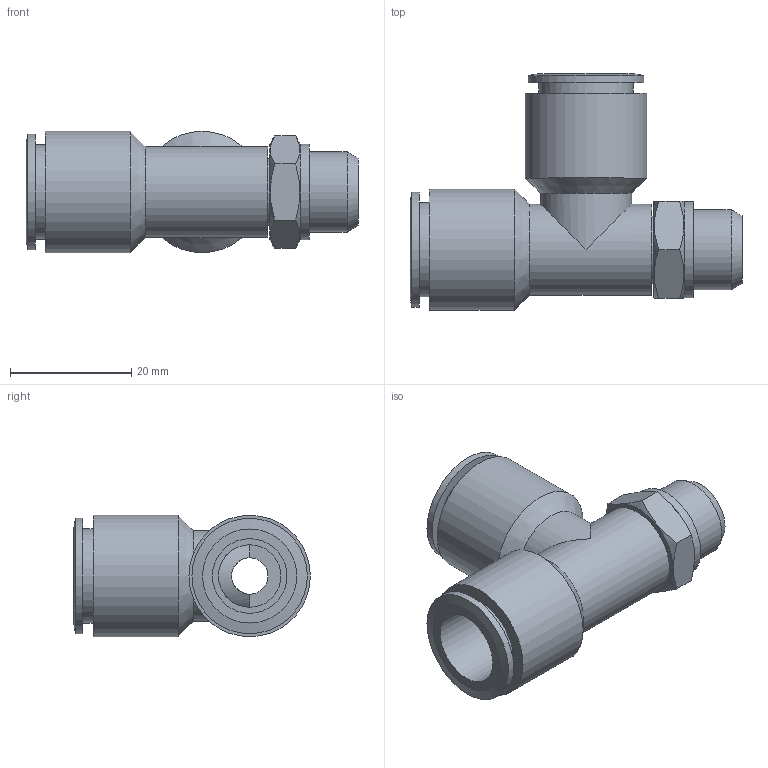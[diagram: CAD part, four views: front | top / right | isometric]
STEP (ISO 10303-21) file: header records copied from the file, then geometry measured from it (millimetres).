
FILE_DESCRIPTION((''),'2;1');
FILE_NAME('C:\Documents and Settings\rivolro1\Documenti\copia di Raccordi\PLASTICA\T21XXXX\T211214.stp','2007-11-02T08:40:11',('Rivolro1'),(''),'Autodesk Inventor 2008','Autodesk Inventor 2008','');
FILE_SCHEMA(('AUTOMOTIVE_DESIGN { 1 0 10303 214 1 1 1 1 }'));
Length unit declared in the file: millimetre
Products named in the file (1): T211214
Bounding box: 54.7 x 39 x 20 mm (x, y, z)
Volume: 11696.4 mm3; surface area: 8110.2 mm2
Topology: 1 solids, 1 shells, 51 faces, 102 edges, 65 vertices
Faces by surface type: cylinder 19, plane 19, cone 8, bspline 5
Full cylindrical faces by diameter (mm): 6 x1, 10.3 x2, 11 x1, 11.2 x1, 13.2 x1, 15 x2, 15.5 x2, 15.8 x1, 19 x2, 20 x2
Entity records: 1441 total; most frequent: CARTESIAN_POINT 437, DIRECTION 192, ORIENTED_EDGE 142, AXIS2_PLACEMENT_3D 91, EDGE_LOOP 90, EDGE_CURVE 71, VERTEX_POINT 59, FACE_OUTER_BOUND 51
